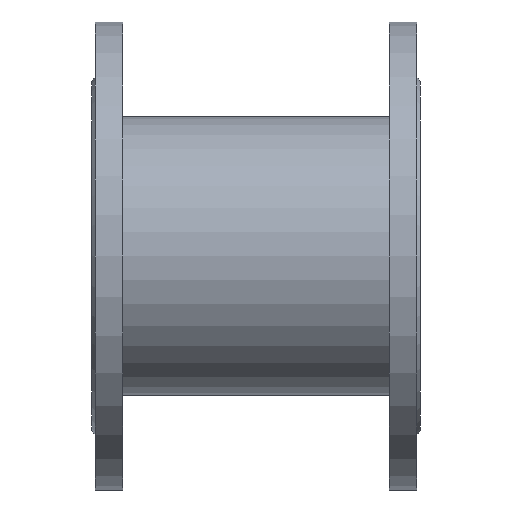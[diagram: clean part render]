
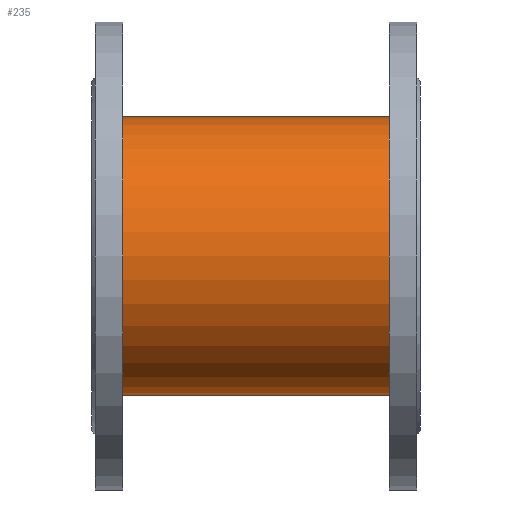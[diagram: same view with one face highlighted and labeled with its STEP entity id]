
A CAD part, front view. The second image highlights one B-rep face of the part: STEP entity #235.
In plain terms, the highlighted cylindrical face has radius 85 mm (diameter 170 mm), a partial arc.
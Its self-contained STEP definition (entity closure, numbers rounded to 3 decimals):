
#235=ADVANCED_FACE('',(#480),#481,.T.);
#480=FACE_OUTER_BOUND('',#741,.T.);
#481=CYLINDRICAL_SURFACE('',#742,85.0);
#741=EDGE_LOOP('',(#1246,#1247,#1248,#1249));
#742=AXIS2_PLACEMENT_3D('',#1250,#1251,#1252);
#1246=ORIENTED_EDGE('',*,*,#1495,.T.);
#1247=ORIENTED_EDGE('',*,*,#1456,.T.);
#1248=ORIENTED_EDGE('',*,*,#1497,.T.);
#1249=ORIENTED_EDGE('',*,*,#1528,.T.);
#1250=CARTESIAN_POINT('',(7.5,0.0,0.));
#1251=DIRECTION('',(1.0,0.0,0.));
#1252=DIRECTION('',(0.,0.0,-1.0));
#1456=EDGE_CURVE('',#1755,#1756,#1757,.T.);
#1495=EDGE_CURVE('',#1812,#1755,#1813,.T.);
#1497=EDGE_CURVE('',#1756,#1814,#1816,.T.);
#1528=EDGE_CURVE('',#1814,#1812,#1853,.T.);
#1755=VERTEX_POINT('',#2102);
#1756=VERTEX_POINT('',#2103);
#1757=CIRCLE('',#2104,85.0);
#1812=VERTEX_POINT('',#2175);
#1813=LINE('',#2176,#2177);
#1814=VERTEX_POINT('',#2178);
#1816=LINE('',#2180,#2181);
#1853=CIRCLE('',#2228,85.0);
#2102=CARTESIAN_POINT('',(192.5,0.0,-85.0));
#2103=CARTESIAN_POINT('',(192.5,0.,85.0));
#2104=AXIS2_PLACEMENT_3D('',#2507,#2508,#2509);
#2175=CARTESIAN_POINT('',(7.5,0.0,-85.0));
#2176=CARTESIAN_POINT('',(7.5,0.,-85.0));
#2177=VECTOR('',#2556,1.0);
#2178=CARTESIAN_POINT('',(7.5,0.,85.0));
#2180=CARTESIAN_POINT('',(7.5,0.,85.0));
#2181=VECTOR('',#2560,1.0);
#2228=AXIS2_PLACEMENT_3D('',#2595,#2596,#2597);
#2507=CARTESIAN_POINT('',(192.5,0.0,0.));
#2508=DIRECTION('',(-1.0,-0.0,0.));
#2509=DIRECTION('',(0.,0.0,-1.0));
#2556=DIRECTION('',(1.0,0.0,0.));
#2560=DIRECTION('',(-1.0,-0.0,0.));
#2595=CARTESIAN_POINT('',(7.5,0.0,0.));
#2596=DIRECTION('',(1.0,0.0,0.));
#2597=DIRECTION('',(0.,0.0,-1.0));
